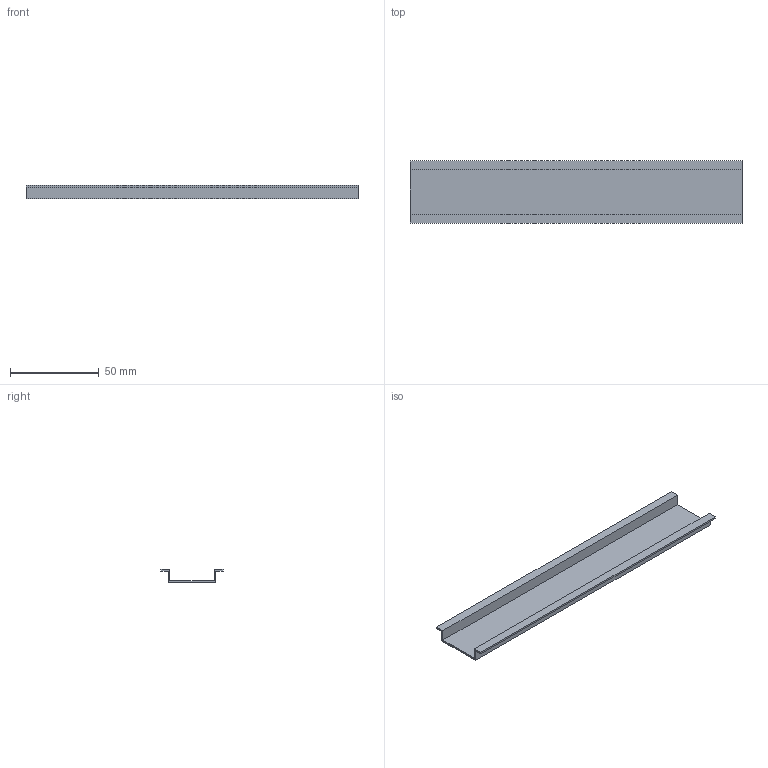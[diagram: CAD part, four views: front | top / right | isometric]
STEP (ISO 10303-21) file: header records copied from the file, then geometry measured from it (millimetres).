
FILE_DESCRIPTION( ( 'STEP AP214' ), '1' );
FILE_NAME( 'p:/temp/worker_106/temp/exporttempdir_1884_213_urKgH/format_0/BDR3520(0).stp', '2021-03-15T14:02:04', ( 'License CC BY-ND 4.0' ), ( 'CADENAS' ), ' ', 'PARTsolutions', ' ' );
FILE_SCHEMA( ( 'AUTOMOTIVE_DESIGN { 1 0 10303 214 1 1 1 1 }' ) );
Length unit declared in the file: millimetre
Products named in the file (1): _BDR3520(0)
Bounding box: 187.2 x 35 x 7.5 mm (x, y, z)
Volume: 8985.6 mm3; surface area: 18441.6 mm2
Topology: 1 solids, 1 shells, 14 faces, 36 edges, 24 vertices
Faces by surface type: plane 14
Entity records: 548 total; most frequent: CARTESIAN_POINT 75, ORIENTED_EDGE 72, DIRECTION 66, EDGE_CURVE 36, LINE 36, VECTOR 36, VERTEX_POINT 24, AXIS2_PLACEMENT_3D 15
